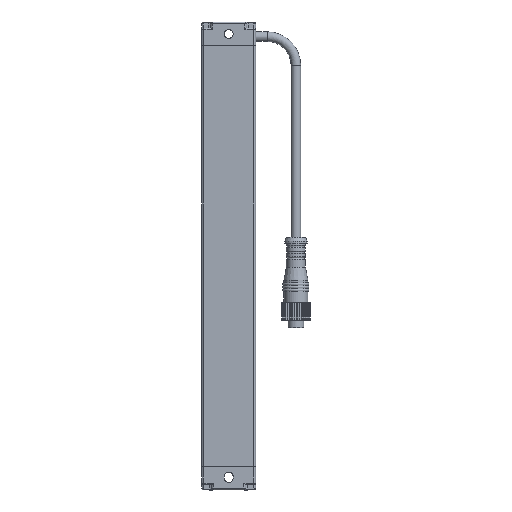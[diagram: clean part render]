
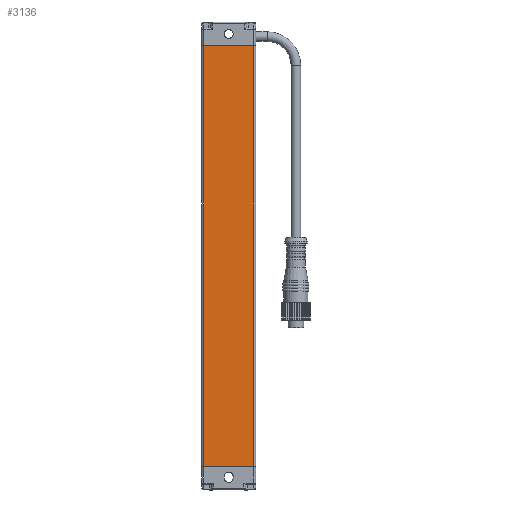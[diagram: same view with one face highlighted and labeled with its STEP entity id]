
A CAD part, front view. The second image highlights one B-rep face of the part: STEP entity #3136.
In plain terms, the highlighted planar face has unit normal (0, -1, 0).
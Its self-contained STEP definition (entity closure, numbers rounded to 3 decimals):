
#313=DIRECTION('',(1.,0.,0.));
#314=VECTOR('',#313,26.2);
#315=CARTESIAN_POINT('',(-13.1,-6.87,-110.));
#316=LINE('',#315,#314);
#1108=DIRECTION('',(1.,0.,0.));
#1109=VECTOR('',#1108,26.2);
#1110=CARTESIAN_POINT('',(-13.1,-6.87,110.));
#1111=LINE('',#1110,#1109);
#1565=DIRECTION('',(0.,0.,-1.));
#1566=VECTOR('',#1565,220.);
#1567=CARTESIAN_POINT('',(13.1,-6.87,110.));
#1568=LINE('',#1567,#1566);
#1572=DIRECTION('',(0.,0.,-1.));
#1573=VECTOR('',#1572,220.);
#1574=CARTESIAN_POINT('',(-13.1,-6.87,110.));
#1575=LINE('',#1574,#1573);
#2088=CARTESIAN_POINT('',(13.1,-6.87,-110.));
#2090=VERTEX_POINT('',#2088);
#2091=CARTESIAN_POINT('',(13.1,-6.87,110.));
#2092=VERTEX_POINT('',#2091);
#2111=CARTESIAN_POINT('',(-13.1,-6.87,-110.));
#2113=VERTEX_POINT('',#2111);
#2117=CARTESIAN_POINT('',(-13.1,-6.87,110.));
#2118=VERTEX_POINT('',#2117);
#3124=CARTESIAN_POINT('',(-14.1,-6.87,-110.));
#3125=DIRECTION('',(0.,-1.,0.));
#3126=DIRECTION('',(1.,0.,0.));
#3127=AXIS2_PLACEMENT_3D('',#3124,#3125,#3126);
#3128=PLANE('',#3127);
#3129=ORIENTED_EDGE('',*,*,#3117,.T.);
#3130=ORIENTED_EDGE('',*,*,#2284,.F.);
#3132=ORIENTED_EDGE('',*,*,#3131,.F.);
#3133=ORIENTED_EDGE('',*,*,#2729,.T.);
#3134=EDGE_LOOP('',(#3129,#3130,#3132,#3133));
#3135=FACE_OUTER_BOUND('',#3134,.F.);
#2284=EDGE_CURVE('',#2113,#2090,#316,.T.);
#2729=EDGE_CURVE('',#2118,#2092,#1111,.T.);
#3117=EDGE_CURVE('',#2092,#2090,#1568,.T.);
#3131=EDGE_CURVE('',#2118,#2113,#1575,.T.);
#3136=ADVANCED_FACE('',(#3135),#3128,.T.);
